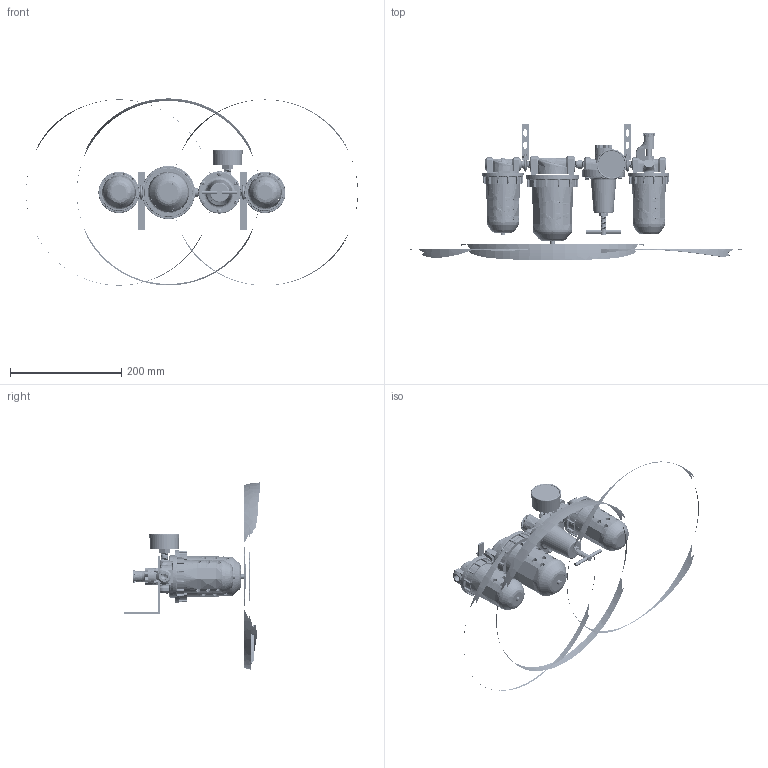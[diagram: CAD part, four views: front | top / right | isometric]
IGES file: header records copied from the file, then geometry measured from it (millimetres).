
Start section: SolidWorks IGES file using analytic representation for surfaces
Global section: file name: D:\Custom\3D繪製\FRL\FSRL系列\A728##-02YB#.IGS; native system: SolidWorks 2014; preprocessor: SolidWorks 2014; author: Chieh_Lu; date: 160115.014820; units: millimetre
Bounding box: 598.19 x 246.13 x 337.41 mm (x, y, z)
Surface area: 252678.7 mm2 (no closed solid volume)
Topology: 0 solids, 0 shells, 2209 faces, 32142 edges, 32107 vertices
Faces by surface type: bspline 1141, revolution 1068
